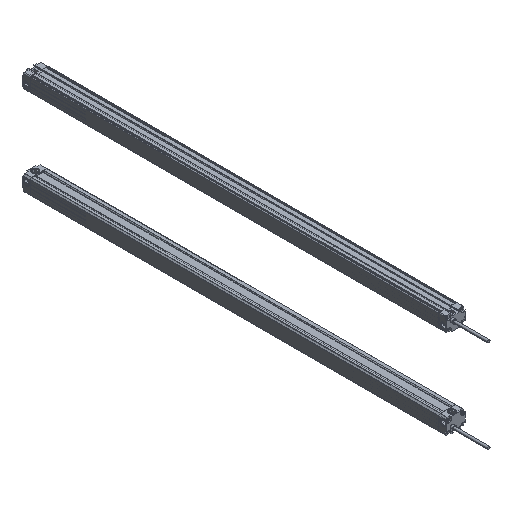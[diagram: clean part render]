
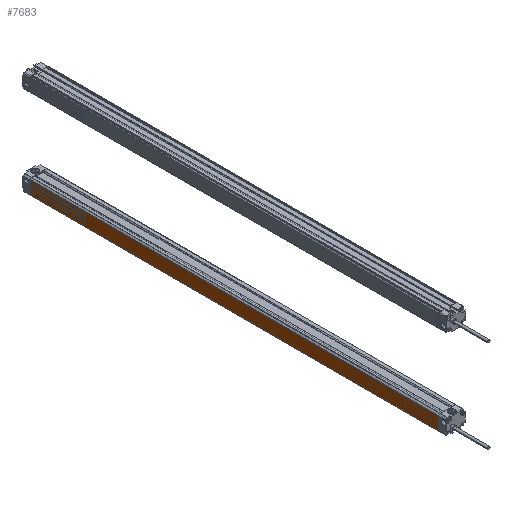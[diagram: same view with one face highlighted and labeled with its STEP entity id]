
A CAD part, isometric view. The second image highlights one B-rep face of the part: STEP entity #7683.
In plain terms, the highlighted planar face has unit normal (-1, 0, 0).
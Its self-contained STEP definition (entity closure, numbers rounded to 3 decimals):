
#182 = ORIENTED_EDGE ( 'NONE', *, *, #4394, .F. ) ;
#194 = FACE_OUTER_BOUND ( 'NONE', #1239, .T. ) ;
#272 = CARTESIAN_POINT ( 'NONE',  ( -12.5, 0., -9.2 ) ) ;
#944 = EDGE_CURVE ( 'NONE', #9118, #5257, #9491, .T. ) ;
#1239 = EDGE_LOOP ( 'NONE', ( #8785, #182, #4108, #9268 ) ) ;
#1324 = VECTOR ( 'NONE', #4532, 1000. ) ;
#1429 = VERTEX_POINT ( 'NONE', #3648 ) ;
#1556 = EDGE_CURVE ( 'NONE', #4671, #1429, #3553, .T. ) ;
#1735 = VECTOR ( 'NONE', #4507, 1000. ) ;
#1907 = DIRECTION ( 'NONE',  ( 0., 1., 0. ) ) ;
#2381 = LINE ( 'NONE', #5585, #10940 ) ;
#2736 = CARTESIAN_POINT ( 'NONE',  ( -12.5, -560., -9.2 ) ) ;
#2782 = DIRECTION ( 'NONE',  ( 0., 0., 1. ) ) ;
#3553 = LINE ( 'NONE', #3692, #1324 ) ;
#3648 = CARTESIAN_POINT ( 'NONE',  ( -12.5, -560., 8.293 ) ) ;
#3692 = CARTESIAN_POINT ( 'NONE',  ( -12.5, -560., -9.2 ) ) ;
#4108 = ORIENTED_EDGE ( 'NONE', *, *, #1556, .T. ) ;
#4388 = CARTESIAN_POINT ( 'NONE',  ( -12.5, -560., 8.293 ) ) ;
#4394 = EDGE_CURVE ( 'NONE', #4671, #9118, #2381, .T. ) ;
#4507 = DIRECTION ( 'NONE',  ( 0., 0., 1. ) ) ;
#4532 = DIRECTION ( 'NONE',  ( 0., 0., 1. ) ) ;
#4671 = VERTEX_POINT ( 'NONE', #2736 ) ;
#5218 = LINE ( 'NONE', #4388, #7831 ) ;
#5257 = VERTEX_POINT ( 'NONE', #8964 ) ;
#5268 = AXIS2_PLACEMENT_3D ( 'NONE', #6117, #7817, #2782 ) ;
#5514 = DIRECTION ( 'NONE',  ( 0., 1., 0. ) ) ;
#5585 = CARTESIAN_POINT ( 'NONE',  ( -12.5, -560., -9.2 ) ) ;
#6007 = PLANE ( 'NONE',  #5268 ) ;
#6117 = CARTESIAN_POINT ( 'NONE',  ( -12.5, -560., -9.2 ) ) ;
#6595 = EDGE_CURVE ( 'NONE', #1429, #5257, #5218, .T. ) ;
#7683 = ADVANCED_FACE ( 'NONE', ( #194 ), #6007, .T. ) ;
#7817 = DIRECTION ( 'NONE',  ( -1., 0., 0. ) ) ;
#7831 = VECTOR ( 'NONE', #1907, 1000. ) ;
#8785 = ORIENTED_EDGE ( 'NONE', *, *, #944, .F. ) ;
#8964 = CARTESIAN_POINT ( 'NONE',  ( -12.5, 0., 8.293 ) ) ;
#9118 = VERTEX_POINT ( 'NONE', #9863 ) ;
#9268 = ORIENTED_EDGE ( 'NONE', *, *, #6595, .T. ) ;
#9491 = LINE ( 'NONE', #272, #1735 ) ;
#9863 = CARTESIAN_POINT ( 'NONE',  ( -12.5, 0., -9.2 ) ) ;
#10940 = VECTOR ( 'NONE', #5514, 1000. ) ;
